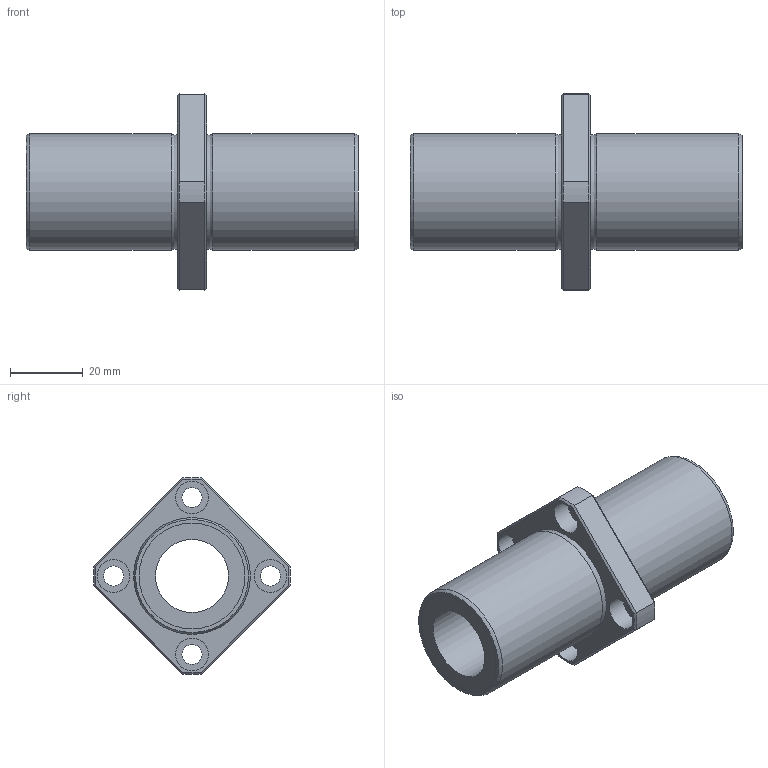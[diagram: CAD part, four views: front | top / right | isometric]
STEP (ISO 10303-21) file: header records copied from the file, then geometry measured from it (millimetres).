
FILE_DESCRIPTION((''),'2;1');
FILE_NAME('D:\製品 (図面)\カタログ用3D\メンテナンスフリー関連\STEP形式\LFDKC-MF\LFDKC20MF.stp','2010-06-01T15:42:24',('Tsuchiya'),(''),'Autodesk Inventor 10','Autodesk Inventor 10','');
FILE_SCHEMA(('AUTOMOTIVE_DESIGN { 1 0 10303 214 1 1 1 1 }'));
Length unit declared in the file: millimetre
Products named in the file (1): LFDKC20MF
Bounding box: 91 x 53.97 x 53.97 mm (x, y, z)
Volume: 50173.6 mm3; surface area: 18664.9 mm2
Topology: 1 solids, 1 shells, 51 faces, 103 edges, 62 vertices
Faces by surface type: plane 22, cylinder 17, cone 8, torus 2, bspline 2
Full cylindrical faces by diameter (mm): 5.5 x4, 9 x4, 20 x1, 29 x2, 32 x2
Entity records: 1413 total; most frequent: CARTESIAN_POINT 372, DIRECTION 216, ORIENTED_EDGE 172, AXIS2_PLACEMENT_3D 96, EDGE_CURVE 86, EDGE_LOOP 86, VERTEX_POINT 62, FACE_OUTER_BOUND 51
